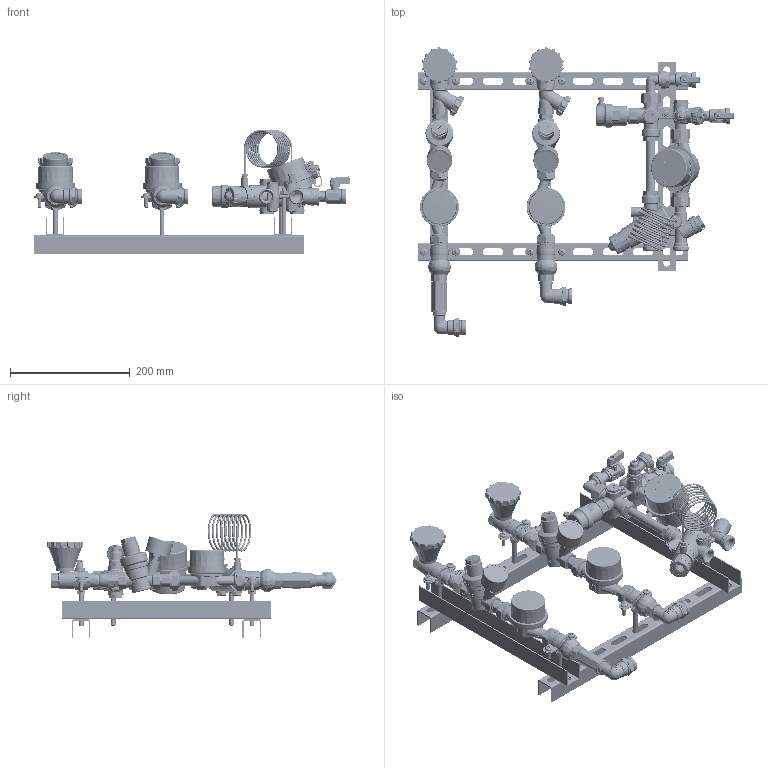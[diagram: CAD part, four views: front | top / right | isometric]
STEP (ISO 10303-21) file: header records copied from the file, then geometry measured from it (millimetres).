
FILE_DESCRIPTION(('STEP AP242'), '1');
FILE_NAME('覆.494726.026.000 捘 - VT.LM.HD.A0', '', ('UNSPECIFIED'), ('UNSPECIFIED'), 'C3D Converter', 'C3D Toolkit', '');
FILE_SCHEMA(('AP242_MANAGED_MODEL_BASED_3D_ENGINEERING_MIM_LF { 1 0 10303 442 1 1 4 }'));
Length unit declared in the file: millimetre
Products named in the file (230): ВР.494726.026.000 СБ; ВР.494726.024.000 СБ; ВР.494726.002.001 СБ; ВР.130300.003; ВР.407223.001.000 СБ; ВР.407223.001.002 СБ; ВР.731464.002; ВР.753182.016; ВР.714411.001; ВР.715113.003; ВР.407223.001.002.002 СБ; ВР.753192.014; ВР.715113.002; ВР.711141.021; ВР.713121.002; ВР.711141.022; ВР.407223.001.002.001 СБ; ВР.753181.009; ВР.713141.002; ВР.711141.023; ВР.711242.002; ВР.725113.002; ВР.752676.002; ВР.711123.001; ВР.407223.001.002.003 СБ; ВР.753125.009; ВР.712351.012; ВР.407223.001.001 СБ; ВР.407223.001.001.001 СБ; ВР.753191.017; ВР.741334.001; ВР.711112.001; ВР.711112.002; ВР.753191.016; ВР.714313.001; ВР.741331.001; ВР.714341.001; ВР.714621.003; ВР.305321.001.000 СБ; ВР.712351.001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
Assembly tree (292 placements, depth 8):
  ВР.494726.026.000 СБ
    ВР.494726.024.000 СБ
      ВР.494726.002.001 СБ
        ВР.130300.003
        ВР.407223.001.000 СБ
          ВР.407223.001.002 СБ
            ВР.731464.002
            ВР.753182.016
            ВР.714411.001
              ВР.715113.003
            ВР.407223.001.002.002 СБ
              ВР.753192.014
                ВР.715113.002
              ВР.711141.021
              ВР.713121.002
            ВР.711141.022
            ВР.407223.001.002.001 СБ
              ВР.753181.009
              ВР.713141.002
            (unnamed)
            ВР.711141.023
            ВР.711242.002
            ВР.725113.002
            ВР.752676.002
            ВР.711123.001  x2
            ВР.407223.001.002.003 СБ
              ВР.753125.009
              (unnamed)
          ВР.712351.012
          ВР.407223.001.001 СБ
            ВР.407223.001.001.001 СБ
              ВР.753191.017
              ВР.741334.001
              ВР.711112.001
            ВР.711112.002
            ВР.753191.016
            (unnamed)
            ВР.714313.001
            ВР.741331.001
            (unnamed)  x3
            ВР.714341.001  x2
            ВР.714621.003
        ВР.305321.001.000 СБ  x2
          ВР.712351.001
          ВР.714671.001
        ВР.758422.004  x2
        ВР.494726.002.001.002 СБ
          ВР.731371.001
          ВР.725140.002
          (unnamed)
            ВР.753125.023
            (unnamed)
          ВР.758421.046
          ВР.753612.008
          ВР.305319.007.000 СБ
            ВР.753125.011
            (unnamed)
          ВР.305319.008.000 СБ  x2
            ВР.753125.012
            (unnamed)
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Bounding box: 526.92 x 483.5 x 207.51 mm (x, y, z)
Volume: 1528178.3 mm3; surface area: 1189373.7 mm2
Topology: 344 solids, 348 shells, 27594 faces, 74438 edges, 49015 vertices
Faces by surface type: plane 10705, extrusion 7697, cylinder 5802, cone 1554, bspline 1011, torus 743, sphere 82
Full cylindrical faces by diameter (mm): 0.4 x4, 0.6 x23, 0.7 x2, 0.8 x12, 1 x12, 1.1 x308, 1.2 x23, 1.3 x15, 1.5 x54, 1.55 x2, 1.6 x22, 1.66 x4, 1.7 x3, 1.8 x10, 1.9 x5, 2 x33, 2.1 x3, 2.2 x11, 2.3 x2, 2.4 x2, 2.5 x10, 2.8 x1, 3 x74, 3.1 x2, 3.242 x2, 3.4 x34, 3.5 x12, 3.6 x5, 3.8 x5, 3.9 x1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
Entity records: 719290 total; most frequent: CARTESIAN_POINT 346521, ORIENTED_EDGE 77286, DIRECTION 59204, EDGE_CURVE 38645, VERTEX_POINT 26210, VECTOR 22158, AXIS2_PLACEMENT_3D 18523, EDGE_LOOP 18217
